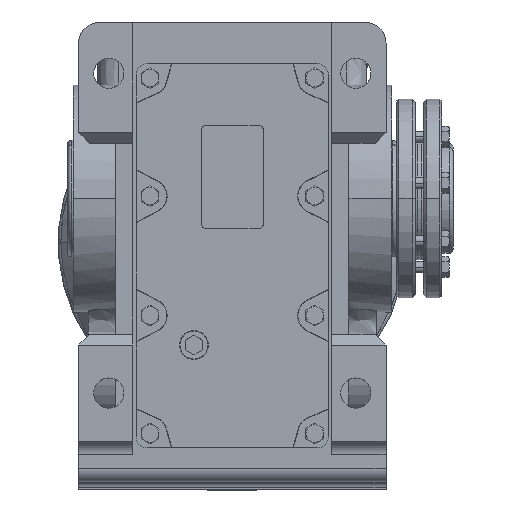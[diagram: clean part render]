
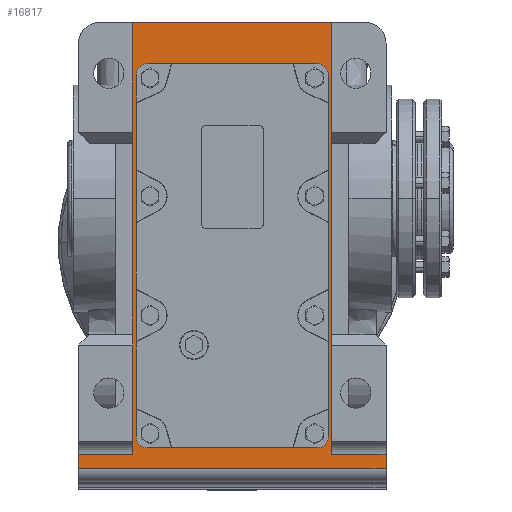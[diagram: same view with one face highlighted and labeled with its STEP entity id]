
A CAD part, top view. The second image highlights one B-rep face of the part: STEP entity #16817.
In plain terms, the highlighted planar face has unit normal (0, 0, 1).
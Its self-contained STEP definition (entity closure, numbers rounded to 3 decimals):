
#26 = EDGE_CURVE ( 'NONE', #20475, #20591, #12133, .T. ) ;
#224 = EDGE_CURVE ( 'NONE', #25632, #20294, #12382, .T. ) ;
#229 = EDGE_CURVE ( 'NONE', #20294, #20345, #12391, .T. ) ;
#230 = EDGE_CURVE ( 'NONE', #20382, #20345, #12393, .T. ) ;
#233 = EDGE_CURVE ( 'NONE', #20582, #25632, #12399, .T. ) ;
#243 = EDGE_CURVE ( 'NONE', #20343, #20319, #12416, .T. ) ;
#248 = EDGE_CURVE ( 'NONE', #20370, #25588, #12423, .T. ) ;
#254 = EDGE_CURVE ( 'NONE', #25594, #20357, #12431, .T. ) ;
#269 = EDGE_CURVE ( 'NONE', #20602, #20415, #12455, .T. ) ;
#271 = EDGE_CURVE ( 'NONE', #20415, #20582, #12458, .T. ) ;
#275 = EDGE_CURVE ( 'NONE', #20319, #20370, #12463, .T. ) ;
#277 = EDGE_CURVE ( 'NONE', #25588, #25594, #12465, .T. ) ;
#354 = EDGE_LOOP ( 'NONE', ( #53502, #53501, #53510, #53509, #53508, #53507, #53506, #53494 ) ) ;
#369 = EDGE_LOOP ( 'NONE', ( #53491, #53227, #53232, #53224, #53223, #53222, #53221, #53220 ) ) ;
#2520 = AXIS2_PLACEMENT_3D ( 'NONE', #25109, #25103, #25101 ) ;
#2521 = AXIS2_PLACEMENT_3D ( 'NONE', #25089, #25086, #25084 ) ;
#3336 = AXIS2_PLACEMENT_3D ( 'NONE', #26036, #26045, #26046 ) ;
#12133 = LINE ( 'NONE', #42865, #12135 ) ;
#12135 = VECTOR ( 'NONE', #42869, 1000. ) ;
#12382 = LINE ( 'NONE', #25379, #12385 ) ;
#12385 = VECTOR ( 'NONE', #25353, 1000. ) ;
#12391 = LINE ( 'NONE', #25271, #12394 ) ;
#12393 = LINE ( 'NONE', #25261, #12396 ) ;
#12394 = VECTOR ( 'NONE', #25265, 1000. ) ;
#12396 = VECTOR ( 'NONE', #25250, 1000. ) ;
#12399 = LINE ( 'NONE', #25258, #12401 ) ;
#12401 = VECTOR ( 'NONE', #25322, 1000. ) ;
#12416 = LINE ( 'NONE', #25061, #12418 ) ;
#12418 = VECTOR ( 'NONE', #25054, 1000. ) ;
#12423 = LINE ( 'NONE', #24999, #12426 ) ;
#12426 = VECTOR ( 'NONE', #24994, 1000. ) ;
#12431 = LINE ( 'NONE', #25405, #12436 ) ;
#12436 = VECTOR ( 'NONE', #24970, 1000. ) ;
#12455 = LINE ( 'NONE', #25179, #12457 ) ;
#12457 = VECTOR ( 'NONE', #25207, 1000. ) ;
#12458 = LINE ( 'NONE', #25168, #12460 ) ;
#12460 = VECTOR ( 'NONE', #25166, 1000. ) ;
#12463 = CIRCLE ( 'NONE', #2520, 8. ) ;
#12465 = CIRCLE ( 'NONE', #2521, 8. ) ;
#16817 = ADVANCED_FACE ( 'NONE', ( #23912, #23915 ), #26040, .F. ) ;
#20294 = VERTEX_POINT ( 'NONE', #33606 ) ;
#20319 = VERTEX_POINT ( 'NONE', #33623 ) ;
#20343 = VERTEX_POINT ( 'NONE', #33634 ) ;
#20345 = VERTEX_POINT ( 'NONE', #33635 ) ;
#20357 = VERTEX_POINT ( 'NONE', #33646 ) ;
#20370 = VERTEX_POINT ( 'NONE', #33649 ) ;
#20382 = VERTEX_POINT ( 'NONE', #33658 ) ;
#20415 = VERTEX_POINT ( 'NONE', #33680 ) ;
#20475 = VERTEX_POINT ( 'NONE', #33722 ) ;
#20582 = VERTEX_POINT ( 'NONE', #33787 ) ;
#20591 = VERTEX_POINT ( 'NONE', #33792 ) ;
#20602 = VERTEX_POINT ( 'NONE', #33799 ) ;
#22038 = AXIS2_PLACEMENT_3D ( 'NONE', #54839, #54841, #54843 ) ;
#22058 = AXIS2_PLACEMENT_3D ( 'NONE', #55182, #55184, #55186 ) ;
#23912 = FACE_BOUND ( 'NONE', #354, .T. ) ;
#23915 = FACE_OUTER_BOUND ( 'NONE', #369, .T. ) ;
#24970 = DIRECTION ( 'NONE',  ( 0., -1., 0. ) ) ;
#24994 = DIRECTION ( 'NONE',  ( -1., 0., 0. ) ) ;
#24999 = CARTESIAN_POINT ( 'NONE',  ( 62., 98., 111. ) ) ;
#25054 = DIRECTION ( 'NONE',  ( 0., 1., 0. ) ) ;
#25061 = CARTESIAN_POINT ( 'NONE',  ( 70., 90., 111. ) ) ;
#25084 = DIRECTION ( 'NONE',  ( -1., 0., 0. ) ) ;
#25086 = DIRECTION ( 'NONE',  ( 0., 0., 1. ) ) ;
#25089 = CARTESIAN_POINT ( 'NONE',  ( -62., 90., 111. ) ) ;
#25101 = DIRECTION ( 'NONE',  ( 1., 0., 0. ) ) ;
#25103 = DIRECTION ( 'NONE',  ( 0., 0., 1. ) ) ;
#25109 = CARTESIAN_POINT ( 'NONE',  ( 62., 90., 111. ) ) ;
#25166 = DIRECTION ( 'NONE',  ( 0., 1., 0. ) ) ;
#25168 = CARTESIAN_POINT ( 'NONE',  ( 112., -181., 111. ) ) ;
#25179 = CARTESIAN_POINT ( 'NONE',  ( 112., -197., 111. ) ) ;
#25207 = DIRECTION ( 'NONE',  ( 1., 0., 0. ) ) ;
#25250 = DIRECTION ( 'NONE',  ( 0., 1., 0. ) ) ;
#25258 = CARTESIAN_POINT ( 'NONE',  ( -72.5, -187., 111. ) ) ;
#25261 = CARTESIAN_POINT ( 'NONE',  ( -72.5, -212., 111. ) ) ;
#25265 = DIRECTION ( 'NONE',  ( -1., 0., 0. ) ) ;
#25271 = CARTESIAN_POINT ( 'NONE',  ( -72.5, 128., 111. ) ) ;
#25322 = DIRECTION ( 'NONE',  ( -1., 0., 0. ) ) ;
#25353 = DIRECTION ( 'NONE',  ( 0., 1., 0. ) ) ;
#25379 = CARTESIAN_POINT ( 'NONE',  ( 72.5, -212., 111. ) ) ;
#25405 = CARTESIAN_POINT ( 'NONE',  ( -70., 90., 111. ) ) ;
#25588 = VERTEX_POINT ( 'NONE', #47779 ) ;
#25594 = VERTEX_POINT ( 'NONE', #47785 ) ;
#25632 = VERTEX_POINT ( 'NONE', #47823 ) ;
#25705 = VERTEX_POINT ( 'NONE', #47879 ) ;
#26036 = CARTESIAN_POINT ( 'NONE',  ( -72.5, -212., 111. ) ) ;
#26040 = PLANE ( 'NONE',  #3336 ) ;
#26045 = DIRECTION ( 'NONE',  ( 0., 0., -1. ) ) ;
#26046 = DIRECTION ( 'NONE',  ( 0., 1., 0. ) ) ;
#32523 = EDGE_CURVE ( 'NONE', #20382, #25705, #54707, .T. ) ;
#32531 = EDGE_CURVE ( 'NONE', #20591, #20343, #54730, .T. ) ;
#32554 = EDGE_CURVE ( 'NONE', #20602, #25705, #54791, .T. ) ;
#32584 = EDGE_CURVE ( 'NONE', #20357, #20475, #54859, .T. ) ;
#33606 = CARTESIAN_POINT ( 'NONE',  ( 72.5, 128., 111. ) ) ;
#33623 = CARTESIAN_POINT ( 'NONE',  ( 70., 90., 111. ) ) ;
#33634 = CARTESIAN_POINT ( 'NONE',  ( 70., -174., 111. ) ) ;
#33635 = CARTESIAN_POINT ( 'NONE',  ( -72.5, 128., 111. ) ) ;
#33646 = CARTESIAN_POINT ( 'NONE',  ( -70., -174., 111. ) ) ;
#33649 = CARTESIAN_POINT ( 'NONE',  ( 62., 98., 111. ) ) ;
#33658 = CARTESIAN_POINT ( 'NONE',  ( -72.5, -187., 111. ) ) ;
#33680 = CARTESIAN_POINT ( 'NONE',  ( 112., -197., 111. ) ) ;
#33722 = CARTESIAN_POINT ( 'NONE',  ( -62., -182., 111. ) ) ;
#33787 = CARTESIAN_POINT ( 'NONE',  ( 112., -187., 111. ) ) ;
#33792 = CARTESIAN_POINT ( 'NONE',  ( 62., -182., 111. ) ) ;
#33799 = CARTESIAN_POINT ( 'NONE',  ( -112., -197., 111. ) ) ;
#42865 = CARTESIAN_POINT ( 'NONE',  ( 62., -182., 111. ) ) ;
#42869 = DIRECTION ( 'NONE',  ( 1., 0., 0. ) ) ;
#47779 = CARTESIAN_POINT ( 'NONE',  ( -62., 98., 111. ) ) ;
#47785 = CARTESIAN_POINT ( 'NONE',  ( -70., 90., 111. ) ) ;
#47823 = CARTESIAN_POINT ( 'NONE',  ( 72.5, -187., 111. ) ) ;
#47879 = CARTESIAN_POINT ( 'NONE',  ( -112., -187., 111. ) ) ;
#53220 = ORIENTED_EDGE ( 'NONE', *, *, #269, .T. ) ;
#53221 = ORIENTED_EDGE ( 'NONE', *, *, #32554, .F. ) ;
#53222 = ORIENTED_EDGE ( 'NONE', *, *, #32523, .T. ) ;
#53223 = ORIENTED_EDGE ( 'NONE', *, *, #230, .F. ) ;
#53224 = ORIENTED_EDGE ( 'NONE', *, *, #229, .T. ) ;
#53227 = ORIENTED_EDGE ( 'NONE', *, *, #233, .T. ) ;
#53232 = ORIENTED_EDGE ( 'NONE', *, *, #224, .T. ) ;
#53491 = ORIENTED_EDGE ( 'NONE', *, *, #271, .T. ) ;
#53494 = ORIENTED_EDGE ( 'NONE', *, *, #243, .F. ) ;
#53501 = ORIENTED_EDGE ( 'NONE', *, *, #26, .F. ) ;
#53502 = ORIENTED_EDGE ( 'NONE', *, *, #32531, .F. ) ;
#53506 = ORIENTED_EDGE ( 'NONE', *, *, #275, .F. ) ;
#53507 = ORIENTED_EDGE ( 'NONE', *, *, #248, .F. ) ;
#53508 = ORIENTED_EDGE ( 'NONE', *, *, #277, .F. ) ;
#53509 = ORIENTED_EDGE ( 'NONE', *, *, #254, .F. ) ;
#53510 = ORIENTED_EDGE ( 'NONE', *, *, #32584, .F. ) ;
#54707 = LINE ( 'NONE', #54789, #54712 ) ;
#54712 = VECTOR ( 'NONE', #54792, 1000. ) ;
#54730 = CIRCLE ( 'NONE', #22038, 8. ) ;
#54789 = CARTESIAN_POINT ( 'NONE',  ( -72.5, -187., 111. ) ) ;
#54791 = LINE ( 'NONE', #54951, #54795 ) ;
#54792 = DIRECTION ( 'NONE',  ( -1., 0., 0. ) ) ;
#54795 = VECTOR ( 'NONE', #54953, 1000. ) ;
#54839 = CARTESIAN_POINT ( 'NONE',  ( 62., -174., 111. ) ) ;
#54841 = DIRECTION ( 'NONE',  ( 0., 0., 1. ) ) ;
#54843 = DIRECTION ( 'NONE',  ( 1., 0., 0. ) ) ;
#54859 = CIRCLE ( 'NONE', #22058, 8. ) ;
#54951 = CARTESIAN_POINT ( 'NONE',  ( -112., -181., 111. ) ) ;
#54953 = DIRECTION ( 'NONE',  ( 0., 1., 0. ) ) ;
#55182 = CARTESIAN_POINT ( 'NONE',  ( -62., -174., 111. ) ) ;
#55184 = DIRECTION ( 'NONE',  ( 0., 0., 1. ) ) ;
#55186 = DIRECTION ( 'NONE',  ( 1., 0., 0. ) ) ;
